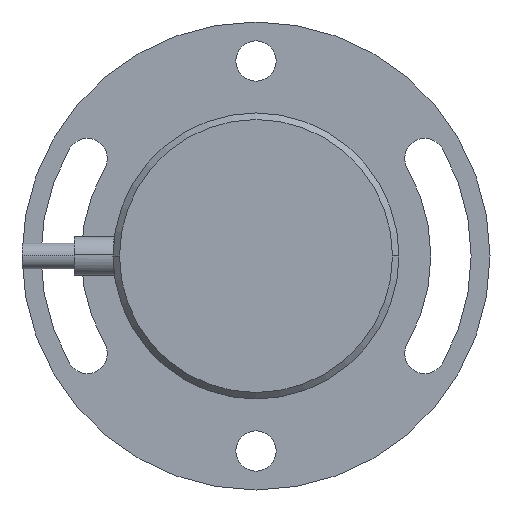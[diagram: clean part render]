
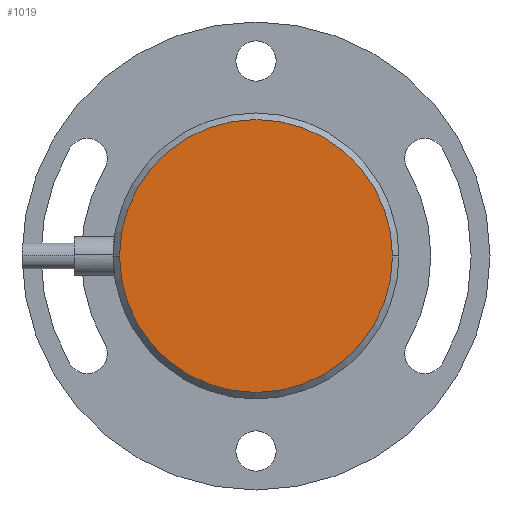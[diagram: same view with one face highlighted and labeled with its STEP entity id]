
A CAD part, front view. The second image highlights one B-rep face of the part: STEP entity #1019.
In plain terms, the highlighted planar face has unit normal (0, -1, 0).
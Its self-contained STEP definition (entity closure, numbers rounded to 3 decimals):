
#348 = FACE_OUTER_BOUND ( 'NONE', #2074, .T. ) ;
#428 = VERTEX_POINT ( 'NONE', #2723 ) ;
#440 = CIRCLE ( 'NONE', #2002, 10.5 ) ;
#441 = CARTESIAN_POINT ( 'NONE',  ( 0., -10.75, 0. ) ) ;
#461 = CARTESIAN_POINT ( 'NONE',  ( 0., -10.75, 0. ) ) ;
#466 = ORIENTED_EDGE ( 'NONE', *, *, #524, .T. ) ;
#524 = EDGE_CURVE ( 'NONE', #2589, #428, #440, .T. ) ;
#538 = EDGE_CURVE ( 'NONE', #428, #2589, #889, .T. ) ;
#645 = DIRECTION ( 'NONE',  ( 0., -1., 0. ) ) ;
#748 = AXIS2_PLACEMENT_3D ( 'NONE', #461, #645, #2391 ) ;
#889 = CIRCLE ( 'NONE', #748, 10.5 ) ;
#902 = ORIENTED_EDGE ( 'NONE', *, *, #538, .T. ) ;
#1019 = ADVANCED_FACE ( 'NONE', ( #348 ), #1415, .F. ) ;
#1327 = DIRECTION ( 'NONE',  ( 1., 0., 0. ) ) ;
#1415 = PLANE ( 'NONE',  #1697 ) ;
#1442 = CARTESIAN_POINT ( 'NONE',  ( 0., -10.75, 0. ) ) ;
#1697 = AXIS2_PLACEMENT_3D ( 'NONE', #1442, #2744, #2295 ) ;
#1846 = CARTESIAN_POINT ( 'NONE',  ( 10.5, -10.75, 0. ) ) ;
#2002 = AXIS2_PLACEMENT_3D ( 'NONE', #441, #2331, #1327 ) ;
#2074 = EDGE_LOOP ( 'NONE', ( #466, #902 ) ) ;
#2295 = DIRECTION ( 'NONE',  ( 1., 0., 0. ) ) ;
#2331 = DIRECTION ( 'NONE',  ( 0., -1., 0. ) ) ;
#2391 = DIRECTION ( 'NONE',  ( 1., 0., 0. ) ) ;
#2589 = VERTEX_POINT ( 'NONE', #1846 ) ;
#2723 = CARTESIAN_POINT ( 'NONE',  ( -10.5, -10.75, 0. ) ) ;
#2744 = DIRECTION ( 'NONE',  ( 0., 1., 0. ) ) ;
